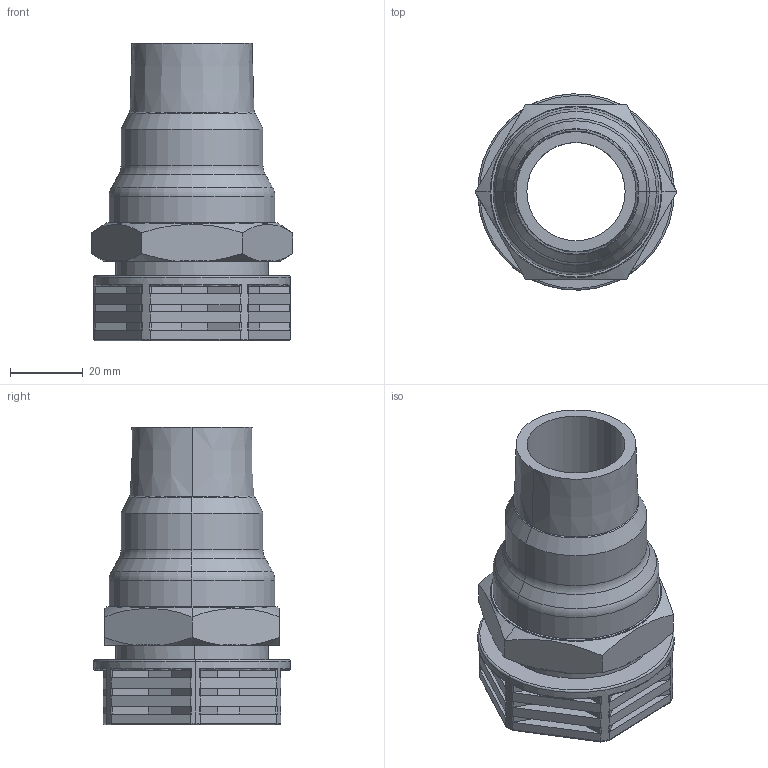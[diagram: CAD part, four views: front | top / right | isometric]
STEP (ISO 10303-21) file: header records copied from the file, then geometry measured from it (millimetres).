
FILE_DESCRIPTION (( 'STEP AP203' ), '1' );
FILE_NAME ('KP_PRK-32MR.step', '2011-08-08T12:04:52', ( '' ), ( '' ), 'SwSTEP 2.0', 'SolidWorks 2011', '' );
FILE_SCHEMA (( 'CONFIG_CONTROL_DESIGN' ));
Length unit declared in the file: millimetre
Products named in the file (1): KP_PRK-32MR
Bounding box: 55.43 x 53.96 x 81.91 mm (x, y, z)
Volume: 53665.7 mm3; surface area: 28060.4 mm2
Topology: 1 solids, 1 shells, 792 faces, 2083 edges, 1304 vertices
Faces by surface type: cylinder 402, plane 327, torus 44, cone 19
Entity records: 24852 total; most frequent: DIRECTION 4629, CARTESIAN_POINT 4490, ORIENTED_EDGE 4166, EDGE_CURVE 2083, AXIS2_PLACEMENT_3D 1807, VERTEX_POINT 1304, VECTOR 1015, LINE 1015
